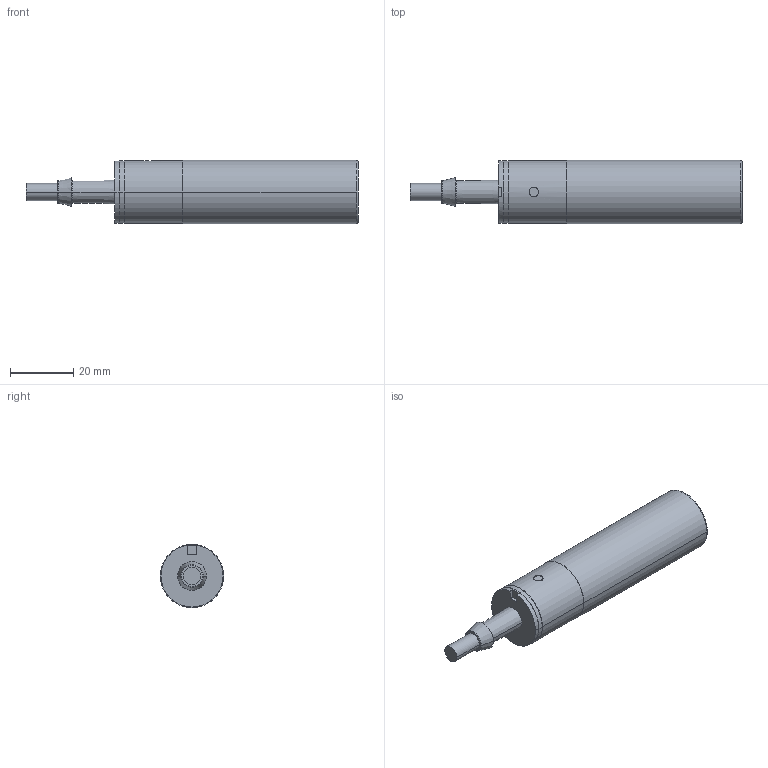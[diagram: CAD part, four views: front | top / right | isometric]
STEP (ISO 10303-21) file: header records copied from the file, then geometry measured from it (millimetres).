
FILE_DESCRIPTION( ( '' ), '1' );
FILE_NAME( '//partserver001.servicenet/client_exchange/iodir/jobs/output/wkb10558331_no0/STEP/ia5108_2_03.stp', '2008-05-13T07:10:59', ( '' ), ( '' ), ' ', ' ', ' ' );
FILE_SCHEMA( ( 'CONFIG_CONTROL_DESIGN' ) );
Length unit declared in the file: millimetre
Products named in the file (1): 1
Bounding box: 104.9 x 20 x 20 mm (x, y, z)
Volume: 25018.2 mm3; surface area: 6062.4 mm2
Topology: 1 solids, 1 shells, 40 faces, 92 edges, 62 vertices
Faces by surface type: cylinder 14, plane 14, torus 8, cone 4
Entity records: 1262 total; most frequent: CARTESIAN_POINT 246, DIRECTION 232, ORIENTED_EDGE 184, AXIS2_PLACEMENT_3D 102, EDGE_CURVE 92, VERTEX_POINT 62, CIRCLE 61, EDGE_LOOP 48
